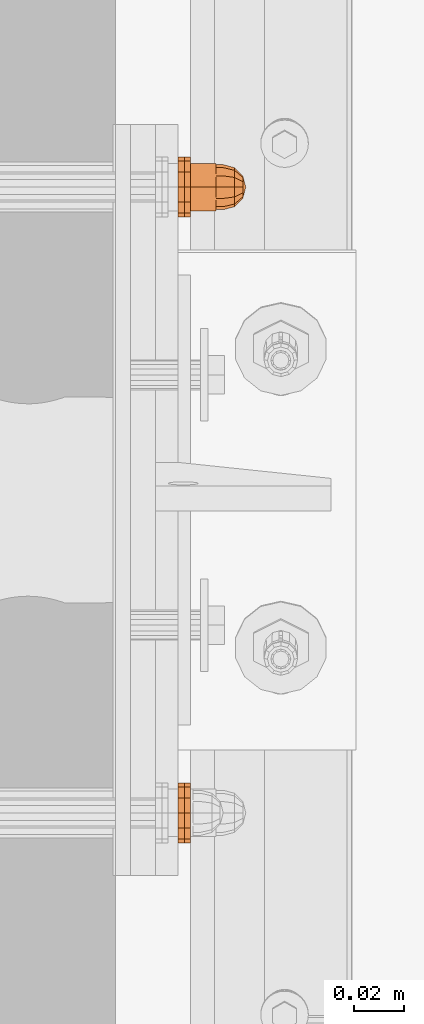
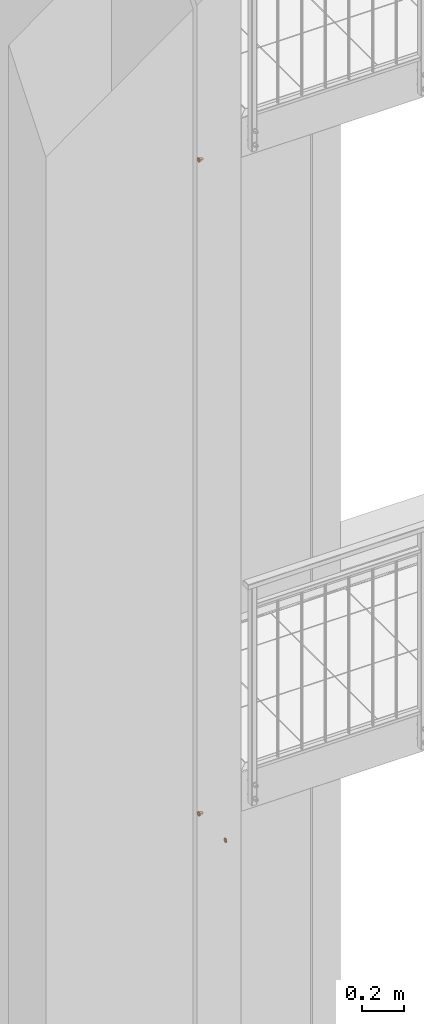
# One storey, part 110 of 162: 8 proxies.
"""IFC2X3 building model written with IfcOpenShell, lengths in millimetres."""

from ifc_helpers import new_model, entity, si_unit, converted_unit, origin_with_axes, place, context, project, spatial, faceted_brep, material, element, save


model = new_model("IFC2X3")

# Units and contexts
model_context = context("Model", 3, precision=1e-09, world=origin_with_axes())
ifc_project = project(units=[si_unit("LENGTHUNIT", "METRE", prefix="MILLI"), si_unit("AREAUNIT", "SQUARE_METRE"), si_unit("VOLUMEUNIT", "CUBIC_METRE"), converted_unit("PLANEANGLEUNIT", "DEGREE", entity("IfcPlaneAngleMeasure", 0.01745329), si_unit("PLANEANGLEUNIT", "RADIAN"), dimensions=[0, 0, 0, 0, 0, 0, 0])], contexts=[model_context])

# Site, building, storey
site_placement = place(None, origin_with_axes())
site = spatial("IfcSite", under=ifc_project, at=site_placement, Name="Hermannstra?e 1a, 60318 Frankfurt", CompositionType="ELEMENT")
building_placement = place(site_placement, origin_with_axes())
building = spatial("IfcBuilding", under=site, at=building_placement, Name="Struktur 1", CompositionType="ELEMENT")
storey_placement = place(building_placement, origin_with_axes())
storey = spatial("IfcBuildingStorey", under=building, at=storey_placement, Name="Default Storey", CompositionType="ELEMENT", Elevation=0.0)

# Proxies
ifc_material_1 = material(Name="A4")
proxy_1_placement = place(None, origin_with_axes())
element("IfcBuildingElementProxy", 1, at=proxy_1_placement, inside=storey, material=ifc_material_1, ObjectType="-", context=model_context, shape_type="Brep", body=[
    faceted_brep([(2550.80936482, 1670.217069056, 11010.999), (2553.30936482, 1670.217069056, 11010.999), (2553.30936482, 1674.609373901, 11015.391304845), (2550.80936482, 1674.609373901, 11015.391304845), (2553.30936482, 1668.609373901, 11004.999), (2553.30936482, 1670.217069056, 10998.999), (2553.30936482, 1674.609373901, 10994.606695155), (2553.30936482, 1680.609373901, 10992.999), (2553.30936482, 1686.609373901, 10994.606695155), (2553.30936482, 1691.001678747, 10998.999), (2553.30936482, 1692.609373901, 11004.999), (2553.30936482, 1691.001678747, 11010.999), (2553.30936482, 1686.609373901, 11015.391304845), (2553.30936482, 1680.609373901, 11016.999), (2553.30936482, 1680.609373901, 11011.499), (2553.30936482, 1683.859373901, 11010.628165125), (2553.30936482, 1686.238539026, 11008.249), (2553.30936482, 1687.109373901, 11004.999), (2553.30936482, 1686.238539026, 11001.749), (2553.30936482, 1683.859373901, 10999.369834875), (2553.30936482, 1680.609373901, 10998.499), (2553.30936482, 1677.359373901, 10999.369834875), (2553.30936482, 1674.980208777, 11001.749), (2553.30936482, 1674.109373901, 11004.999), (2553.30936482, 1674.980208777, 11008.249), (2553.30936482, 1677.359373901, 11010.628165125), (2550.80936482, 1674.980208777, 11008.249), (2550.80936482, 1674.109373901, 11004.999), (2550.80936482, 1674.980208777, 11001.749), (2550.80936482, 1677.359373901, 10999.369834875), (2550.80936482, 1680.609373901, 10998.499), (2550.80936482, 1683.859373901, 10999.369834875), (2550.80936482, 1686.238539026, 11001.749), (2550.80936482, 1687.109373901, 11004.999), (2550.80936482, 1686.238539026, 11008.249), (2550.80936482, 1683.859373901, 11010.628165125), (2550.80936482, 1680.609373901, 11011.499), (2550.80936482, 1677.359373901, 11010.628165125), (2550.80936482, 1668.609373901, 11004.999), (2550.80936482, 1680.609373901, 11016.999), (2550.80936482, 1670.217069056, 10998.999), (2550.80936482, 1686.609373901, 11015.391304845), (2550.80936482, 1674.609373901, 10994.606695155), (2550.80936482, 1691.001678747, 11010.999), (2550.80936482, 1680.609373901, 10992.999), (2550.80936482, 1692.609373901, 11004.999), (2550.80936482, 1686.609373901, 10994.606695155), (2550.80936482, 1691.001678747, 10998.999)], [[[0, 1, 2, 3]], [[2, 1, 4, 5, 6, 7, 8, 9, 10, 11, 12, 13], [14, 15, 16, 17, 18, 19, 20, 21, 22, 23, 24, 25]], [[26, 27, 28, 29, 30, 31, 32, 33, 34, 35, 36, 37]], [[24, 26, 37, 25]], [[1, 0, 38, 4]], [[26, 24, 23, 27]], [[25, 37, 36, 14]], [[3, 2, 13, 39]], [[4, 38, 40, 5]], [[27, 23, 22, 28]], [[14, 36, 35, 15]], [[39, 13, 12, 41]], [[5, 40, 42, 6]], [[28, 22, 21, 29]], [[15, 35, 34, 16]], [[41, 12, 11, 43]], [[33, 17, 16, 34]], [[6, 42, 44, 7]], [[29, 21, 20, 30]], [[32, 18, 17, 33]], [[43, 11, 10, 45]], [[19, 31, 30, 20]], [[18, 32, 31, 19]], [[7, 44, 46, 8]], [[45, 10, 9, 47]], [[8, 46, 47, 9]]]),
])
ifc_material_2 = material(Name="Kunststoff")
proxy_2_placement = place(None, origin_with_axes())
element("IfcBuildingElementProxy", 2, at=proxy_2_placement, inside=storey, material=ifc_material_2, ObjectType="-", context=model_context, shape_type="Brep", body=[
    faceted_brep([(2548.30936482, 1691.001678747, 11010.999), (2550.80936482, 1691.001678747, 11010.999), (2550.80936482, 1692.609373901, 11004.999), (2548.30936482, 1692.609373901, 11004.999), (2548.30936482, 1686.238539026, 11008.249), (2548.30936482, 1683.859373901, 11010.628165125), (2548.30936482, 1680.609373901, 11011.499), (2548.30936482, 1677.359373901, 11010.628165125), (2548.30936482, 1674.980208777, 11008.249), (2548.30936482, 1674.109373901, 11004.999), (2548.30936482, 1674.980208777, 11001.749), (2548.30936482, 1677.359373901, 10999.369834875), (2548.30936482, 1680.609373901, 10998.499), (2548.30936482, 1683.859373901, 10999.369834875), (2548.30936482, 1686.238539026, 11001.749), (2548.30936482, 1687.109373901, 11004.999), (2550.80936482, 1687.109373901, 11004.999), (2550.80936482, 1686.238539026, 11008.249), (2550.80936482, 1686.609373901, 11015.391304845), (2550.80936482, 1680.609373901, 11016.999), (2550.80936482, 1674.609373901, 11015.391304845), (2550.80936482, 1670.217069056, 11010.999), (2550.80936482, 1668.609373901, 11004.999), (2550.80936482, 1670.217069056, 10998.999), (2550.80936482, 1674.609373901, 10994.606695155), (2550.80936482, 1680.609373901, 10992.999), (2550.80936482, 1686.609373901, 10994.606695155), (2550.80936482, 1691.001678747, 10998.999), (2548.30936482, 1686.609373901, 11015.391304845), (2550.80936482, 1686.238539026, 11001.749), (2548.30936482, 1691.001678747, 10998.999), (2550.80936482, 1683.859373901, 11010.628165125), (2548.30936482, 1680.609373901, 11016.999), (2550.80936482, 1683.859373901, 10999.369834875), (2548.30936482, 1686.609373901, 10994.606695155), (2550.80936482, 1680.609373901, 11011.499), (2550.80936482, 1680.609373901, 10998.499), (2548.30936482, 1674.609373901, 11015.391304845), (2550.80936482, 1677.359373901, 11010.628165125), (2548.30936482, 1680.609373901, 10992.999), (2550.80936482, 1677.359373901, 10999.369834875), (2548.30936482, 1670.217069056, 11010.999), (2550.80936482, 1674.980208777, 11008.249), (2548.30936482, 1674.609373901, 10994.606695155), (2550.80936482, 1674.980208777, 11001.749), (2548.30936482, 1668.609373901, 11004.999), (2550.80936482, 1674.109373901, 11004.999), (2548.30936482, 1670.217069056, 10998.999)], [[[0, 1, 2, 3]], [[4, 5, 6, 7, 8, 9, 10, 11, 12, 13, 14, 15]], [[15, 16, 17, 4]], [[1, 18, 19, 20, 21, 22, 23, 24, 25, 26, 27, 2]], [[1, 0, 28, 18]], [[16, 15, 14, 29]], [[3, 2, 27, 30]], [[4, 17, 31, 5]], [[18, 28, 32, 19]], [[29, 14, 13, 33]], [[30, 27, 26, 34]], [[5, 31, 35, 6]], [[33, 13, 12, 36]], [[19, 32, 37, 20]], [[6, 35, 38, 7]], [[34, 26, 25, 39]], [[36, 12, 11, 40]], [[20, 37, 41, 21]], [[7, 38, 42, 8]], [[39, 25, 24, 43]], [[40, 11, 10, 44]], [[21, 41, 45, 22]], [[8, 42, 46, 9]], [[43, 24, 23, 47]], [[44, 10, 9, 46]], [[22, 45, 47, 23]]]),
])
proxy_3_placement = place(None, origin_with_axes())
element("IfcBuildingElementProxy", 3, at=proxy_3_placement, inside=storey, material=ifc_material_1, ObjectType="-", context=model_context, shape_type="Brep", body=[
    faceted_brep([(2563.30936482, 1936.609373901, 11004.999), (2553.30936482, 1936.609373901, 11004.999), (2553.30936482, 1935.805526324, 11001.999), (2563.30936482, 1935.805526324, 11001.999), (2553.30936482, 1933.609373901, 10999.802847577), (2563.30936482, 1933.609373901, 10999.802847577), (2563.30936482, 1935.805526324, 11007.999), (2553.30936482, 1935.805526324, 11007.999), (2553.30936482, 1940.089243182, 11010.472205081), (2553.30936482, 1940.089243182, 10999.525794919), (2553.30936482, 1930.609373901, 10994.052589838), (2553.30936482, 1921.129504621, 10999.525794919), (2553.30936482, 1921.129504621, 11010.472205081), (2553.30936482, 1930.609373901, 11015.945410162), (2553.30936482, 1933.609373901, 11010.195152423), (2553.30936482, 1930.609373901, 11010.999), (2553.30936482, 1927.609373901, 11010.195152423), (2553.30936482, 1925.413221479, 11007.999), (2553.30936482, 1924.609373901, 11004.999), (2553.30936482, 1925.413221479, 11001.999), (2553.30936482, 1927.609373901, 10999.802847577), (2553.30936482, 1930.609373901, 10998.999), (2563.30936482, 1940.089243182, 11010.472205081), (2563.30936482, 1930.609373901, 11015.945410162), (2563.30936482, 1921.129504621, 11010.472205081), (2563.30936482, 1921.129504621, 10999.525794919), (2563.30936482, 1930.609373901, 10994.052589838), (2563.30936482, 1940.089243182, 10999.525794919), (2563.30936482, 1933.609373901, 11010.195152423), (2563.30936482, 1930.609373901, 10998.999), (2563.30936482, 1930.609373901, 11010.999), (2563.30936482, 1927.609373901, 10999.802847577), (2563.30936482, 1927.609373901, 11010.195152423), (2563.30936482, 1925.413221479, 11001.999), (2563.30936482, 1925.413221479, 11007.999), (2563.30936482, 1924.609373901, 11004.999)], [[[0, 1, 2, 3]], [[3, 2, 4, 5]], [[1, 0, 6, 7]], [[8, 9, 10, 11, 12, 13], [7, 14, 15, 16, 17, 18, 19, 20, 21, 4, 2, 1]], [[22, 23, 24, 25, 26, 27]], [[7, 6, 28, 14]], [[22, 27, 9, 8]], [[5, 4, 21, 29]], [[10, 9, 27, 26]], [[14, 28, 30, 15]], [[23, 22, 8, 13]], [[29, 21, 20, 31]], [[11, 10, 26, 25]], [[15, 30, 32, 16]], [[24, 23, 13, 12]], [[31, 20, 19, 33]], [[25, 24, 12, 11]], [[16, 32, 34, 17]], [[33, 19, 18, 35]], [[17, 34, 35, 18]]]),
    faceted_brep([(2566.30936482, 1930.609373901, 11013.999), (2563.30936482, 1930.609373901, 11013.999), (2563.30936482, 1926.109373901, 11012.793228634), (2566.30936482, 1926.109373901, 11012.793228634), (2566.30936482, 1935.109373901, 11012.793228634), (2563.30936482, 1935.109373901, 11012.793228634), (2566.30936482, 1935.109373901, 10997.204771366), (2566.30936482, 1938.403602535, 11000.499), (2566.30936482, 1939.609373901, 11004.999), (2566.30936482, 1938.403602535, 11009.499), (2566.30936482, 1922.815145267, 11009.499), (2566.30936482, 1921.609373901, 11004.999), (2566.30936482, 1922.815145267, 11000.499), (2566.30936482, 1926.109373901, 10997.204771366), (2566.30936482, 1930.609373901, 10995.999), (2563.30936482, 1926.109373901, 10997.204771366), (2563.30936482, 1922.815145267, 11000.499), (2563.30936482, 1921.609373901, 11004.999), (2563.30936482, 1922.815145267, 11009.499), (2563.30936482, 1938.403602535, 11009.499), (2563.30936482, 1939.609373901, 11004.999), (2563.30936482, 1938.403602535, 11000.499), (2563.30936482, 1935.109373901, 10997.204771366), (2563.30936482, 1930.609373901, 10995.999)], [[[0, 1, 2, 3]], [[1, 0, 4, 5]], [[6, 7, 8, 9, 4, 0, 3, 10, 11, 12, 13, 14]], [[15, 16, 17, 18, 2, 1, 5, 19, 20, 21, 22, 23]], [[3, 2, 18, 10]], [[5, 4, 9, 19]], [[10, 18, 17, 11]], [[19, 9, 8, 20]], [[22, 6, 14, 23]], [[7, 21, 20, 8]], [[6, 22, 21, 7]], [[11, 17, 16, 12]], [[23, 14, 13, 15]], [[12, 16, 15, 13]]]),
    faceted_brep([(2570.80936482, 1937.359373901, 11008.896114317), (2566.30936482, 1938.403602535, 11009.499), (2566.30936482, 1935.109373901, 11012.793228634), (2570.80936482, 1934.506488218, 11011.749), (2566.30936482, 1926.109373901, 10997.204771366), (2566.30936482, 1922.815145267, 11000.499), (2566.30936482, 1921.609373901, 11004.999), (2566.30936482, 1922.815145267, 11009.499), (2566.30936482, 1926.109373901, 11012.793228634), (2566.30936482, 1930.609373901, 11013.999), (2566.30936482, 1939.609373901, 11004.999), (2566.30936482, 1938.403602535, 11000.499), (2566.30936482, 1935.109373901, 10997.204771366), (2566.30936482, 1930.609373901, 10995.999), (2570.80936482, 1930.609373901, 11012.793228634), (2574.103593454, 1935.109373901, 11004.999), (2570.80936482, 1938.403602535, 11004.999), (2574.103593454, 1934.506488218, 11007.249), (2570.80936482, 1926.712259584, 11011.749), (2574.103593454, 1932.859373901, 11008.896114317), (2574.103593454, 1934.506488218, 11002.749), (2570.80936482, 1937.359373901, 11001.101885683), (2574.103593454, 1930.609373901, 11009.499), (2575.30936482, 1930.609373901, 11004.999), (2574.103593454, 1932.859373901, 11001.101885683), (2570.80936482, 1934.506488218, 10998.249), (2570.80936482, 1930.609373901, 10997.204771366), (2570.80936482, 1923.859373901, 11008.896114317), (2574.103593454, 1928.359373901, 11008.896114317), (2574.103593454, 1930.609373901, 11000.499), (2570.80936482, 1926.712259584, 10998.249), (2574.103593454, 1928.359373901, 11001.101885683), (2570.80936482, 1922.815145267, 11004.999), (2574.103593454, 1926.712259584, 11007.249), (2570.80936482, 1923.859373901, 11001.101885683), (2574.103593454, 1926.712259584, 11002.749), (2574.103593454, 1926.109373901, 11004.999)], [[[0, 1, 2, 3]], [[4, 5, 6, 7, 8, 9, 2, 1, 10, 11, 12, 13]], [[3, 2, 9, 14]], [[15, 16, 0, 17]], [[1, 0, 16, 10]], [[14, 9, 8, 18]], [[17, 0, 3, 19]], [[16, 15, 20, 21]], [[19, 3, 14, 22]], [[17, 23, 15]], [[24, 25, 21, 20]], [[15, 23, 20]], [[12, 25, 26, 13]], [[11, 21, 25, 12]], [[10, 16, 21, 11]], [[18, 8, 7, 27]], [[22, 14, 18, 28]], [[19, 23, 17]], [[29, 26, 25, 24]], [[20, 23, 24]], [[22, 23, 19]], [[13, 26, 30, 4]], [[26, 29, 31, 30]], [[24, 23, 29]], [[27, 7, 6, 32]], [[28, 18, 27, 33]], [[28, 23, 22]], [[29, 23, 31]], [[33, 23, 28]], [[4, 30, 34, 5]], [[30, 31, 35, 34]], [[31, 23, 35]], [[32, 6, 5, 34]], [[33, 27, 32, 36]], [[36, 23, 33]], [[35, 23, 36]], [[34, 35, 36, 32]]]),
])
proxy_4_placement = place(None, origin_with_axes())
element("IfcBuildingElementProxy", 4, at=proxy_4_placement, inside=storey, material=ifc_material_1, ObjectType="-", context=model_context, shape_type="Brep", body=[
    faceted_brep([(2550.80936482, 1920.217069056, 11010.999), (2553.30936482, 1920.217069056, 11010.999), (2553.30936482, 1924.609373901, 11015.391304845), (2550.80936482, 1924.609373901, 11015.391304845), (2553.30936482, 1918.609373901, 11004.999), (2553.30936482, 1920.217069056, 10998.999), (2553.30936482, 1924.609373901, 10994.606695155), (2553.30936482, 1930.609373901, 10992.999), (2553.30936482, 1936.609373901, 10994.606695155), (2553.30936482, 1941.001678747, 10998.999), (2553.30936482, 1942.609373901, 11004.999), (2553.30936482, 1941.001678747, 11010.999), (2553.30936482, 1936.609373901, 11015.391304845), (2553.30936482, 1930.609373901, 11016.999), (2553.30936482, 1930.609373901, 11011.499), (2553.30936482, 1933.859373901, 11010.628165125), (2553.30936482, 1936.238539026, 11008.249), (2553.30936482, 1937.109373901, 11004.999), (2553.30936482, 1936.238539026, 11001.749), (2553.30936482, 1933.859373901, 10999.369834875), (2553.30936482, 1930.609373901, 10998.499), (2553.30936482, 1927.359373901, 10999.369834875), (2553.30936482, 1924.980208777, 11001.749), (2553.30936482, 1924.109373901, 11004.999), (2553.30936482, 1924.980208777, 11008.249), (2553.30936482, 1927.359373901, 11010.628165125), (2550.80936482, 1924.980208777, 11008.249), (2550.80936482, 1924.109373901, 11004.999), (2550.80936482, 1924.980208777, 11001.749), (2550.80936482, 1927.359373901, 10999.369834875), (2550.80936482, 1930.609373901, 10998.499), (2550.80936482, 1933.859373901, 10999.369834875), (2550.80936482, 1936.238539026, 11001.749), (2550.80936482, 1937.109373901, 11004.999), (2550.80936482, 1936.238539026, 11008.249), (2550.80936482, 1933.859373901, 11010.628165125), (2550.80936482, 1930.609373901, 11011.499), (2550.80936482, 1927.359373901, 11010.628165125), (2550.80936482, 1918.609373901, 11004.999), (2550.80936482, 1930.609373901, 11016.999), (2550.80936482, 1920.217069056, 10998.999), (2550.80936482, 1936.609373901, 11015.391304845), (2550.80936482, 1924.609373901, 10994.606695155), (2550.80936482, 1941.001678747, 11010.999), (2550.80936482, 1930.609373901, 10992.999), (2550.80936482, 1942.609373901, 11004.999), (2550.80936482, 1936.609373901, 10994.606695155), (2550.80936482, 1941.001678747, 10998.999)], [[[0, 1, 2, 3]], [[2, 1, 4, 5, 6, 7, 8, 9, 10, 11, 12, 13], [14, 15, 16, 17, 18, 19, 20, 21, 22, 23, 24, 25]], [[26, 27, 28, 29, 30, 31, 32, 33, 34, 35, 36, 37]], [[24, 26, 37, 25]], [[1, 0, 38, 4]], [[26, 24, 23, 27]], [[25, 37, 36, 14]], [[3, 2, 13, 39]], [[4, 38, 40, 5]], [[27, 23, 22, 28]], [[14, 36, 35, 15]], [[39, 13, 12, 41]], [[5, 40, 42, 6]], [[28, 22, 21, 29]], [[15, 35, 34, 16]], [[41, 12, 11, 43]], [[33, 17, 16, 34]], [[6, 42, 44, 7]], [[29, 21, 20, 30]], [[32, 18, 17, 33]], [[43, 11, 10, 45]], [[19, 31, 30, 20]], [[18, 32, 31, 19]], [[7, 44, 46, 8]], [[45, 10, 9, 47]], [[8, 46, 47, 9]]]),
])
proxy_5_placement = place(None, origin_with_axes())
element("IfcBuildingElementProxy", 5, at=proxy_5_placement, inside=storey, material=ifc_material_2, ObjectType="-", context=model_context, shape_type="Brep", body=[
    faceted_brep([(2548.30936482, 1941.001678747, 11010.999), (2550.80936482, 1941.001678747, 11010.999), (2550.80936482, 1942.609373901, 11004.999), (2548.30936482, 1942.609373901, 11004.999), (2548.30936482, 1936.238539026, 11008.249), (2548.30936482, 1933.859373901, 11010.628165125), (2548.30936482, 1930.609373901, 11011.499), (2548.30936482, 1927.359373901, 11010.628165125), (2548.30936482, 1924.980208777, 11008.249), (2548.30936482, 1924.109373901, 11004.999), (2548.30936482, 1924.980208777, 11001.749), (2548.30936482, 1927.359373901, 10999.369834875), (2548.30936482, 1930.609373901, 10998.499), (2548.30936482, 1933.859373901, 10999.369834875), (2548.30936482, 1936.238539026, 11001.749), (2548.30936482, 1937.109373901, 11004.999), (2550.80936482, 1937.109373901, 11004.999), (2550.80936482, 1936.238539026, 11008.249), (2550.80936482, 1936.609373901, 11015.391304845), (2550.80936482, 1930.609373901, 11016.999), (2550.80936482, 1924.609373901, 11015.391304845), (2550.80936482, 1920.217069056, 11010.999), (2550.80936482, 1918.609373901, 11004.999), (2550.80936482, 1920.217069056, 10998.999), (2550.80936482, 1924.609373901, 10994.606695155), (2550.80936482, 1930.609373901, 10992.999), (2550.80936482, 1936.609373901, 10994.606695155), (2550.80936482, 1941.001678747, 10998.999), (2548.30936482, 1936.609373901, 11015.391304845), (2550.80936482, 1936.238539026, 11001.749), (2548.30936482, 1941.001678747, 10998.999), (2550.80936482, 1933.859373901, 11010.628165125), (2548.30936482, 1930.609373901, 11016.999), (2550.80936482, 1933.859373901, 10999.369834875), (2548.30936482, 1936.609373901, 10994.606695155), (2550.80936482, 1930.609373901, 11011.499), (2550.80936482, 1930.609373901, 10998.499), (2548.30936482, 1924.609373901, 11015.391304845), (2550.80936482, 1927.359373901, 11010.628165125), (2548.30936482, 1930.609373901, 10992.999), (2550.80936482, 1927.359373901, 10999.369834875), (2548.30936482, 1920.217069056, 11010.999), (2550.80936482, 1924.980208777, 11008.249), (2548.30936482, 1924.609373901, 10994.606695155), (2550.80936482, 1924.980208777, 11001.749), (2548.30936482, 1918.609373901, 11004.999), (2550.80936482, 1924.109373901, 11004.999), (2548.30936482, 1920.217069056, 10998.999)], [[[0, 1, 2, 3]], [[4, 5, 6, 7, 8, 9, 10, 11, 12, 13, 14, 15]], [[15, 16, 17, 4]], [[1, 18, 19, 20, 21, 22, 23, 24, 25, 26, 27, 2]], [[1, 0, 28, 18]], [[16, 15, 14, 29]], [[3, 2, 27, 30]], [[4, 17, 31, 5]], [[18, 28, 32, 19]], [[29, 14, 13, 33]], [[30, 27, 26, 34]], [[5, 31, 35, 6]], [[33, 13, 12, 36]], [[19, 32, 37, 20]], [[6, 35, 38, 7]], [[34, 26, 25, 39]], [[36, 12, 11, 40]], [[20, 37, 41, 21]], [[7, 38, 42, 8]], [[39, 25, 24, 43]], [[40, 11, 10, 44]], [[21, 41, 45, 22]], [[8, 42, 46, 9]], [[43, 24, 23, 47]], [[44, 10, 9, 46]], [[22, 45, 47, 23]]]),
])
proxy_6_placement = place(None, origin_with_axes())
element("IfcBuildingElementProxy", 6, at=proxy_6_placement, inside=storey, material=ifc_material_2, ObjectType="-", context=model_context, shape_type="Brep", body=[
    faceted_brep([(2548.310071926, 1941.002385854, 14767.999), (2550.810071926, 1941.002385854, 14767.999), (2550.810071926, 1942.610081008, 14761.999), (2548.310071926, 1942.610081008, 14761.999), (2548.310071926, 1936.239246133, 14765.249), (2548.310071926, 1933.860081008, 14767.628165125), (2548.310071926, 1930.610081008, 14768.499), (2548.310071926, 1927.360081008, 14767.628165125), (2548.310071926, 1924.980915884, 14765.249), (2548.310071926, 1924.110081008, 14761.999), (2548.310071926, 1924.980915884, 14758.749), (2548.310071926, 1927.360081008, 14756.369834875), (2548.310071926, 1930.610081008, 14755.499), (2548.310071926, 1933.860081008, 14756.369834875), (2548.310071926, 1936.239246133, 14758.749), (2548.310071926, 1937.110081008, 14761.999), (2550.810071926, 1937.110081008, 14761.999), (2550.810071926, 1936.239246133, 14765.249), (2550.810071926, 1936.610081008, 14772.391304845), (2550.810071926, 1930.610081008, 14773.999), (2550.810071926, 1924.610081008, 14772.391304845), (2550.810071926, 1920.217776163, 14767.999), (2550.810071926, 1918.610081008, 14761.999), (2550.810071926, 1920.217776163, 14755.999), (2550.810071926, 1924.610081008, 14751.606695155), (2550.810071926, 1930.610081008, 14749.999), (2550.810071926, 1936.610081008, 14751.606695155), (2550.810071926, 1941.002385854, 14755.999), (2548.310071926, 1936.610081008, 14772.391304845), (2550.810071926, 1936.239246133, 14758.749), (2548.310071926, 1941.002385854, 14755.999), (2550.810071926, 1933.860081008, 14767.628165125), (2548.310071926, 1930.610081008, 14773.999), (2550.810071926, 1933.860081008, 14756.369834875), (2548.310071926, 1936.610081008, 14751.606695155), (2550.810071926, 1930.610081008, 14768.499), (2550.810071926, 1930.610081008, 14755.499), (2548.310071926, 1924.610081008, 14772.391304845), (2550.810071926, 1927.360081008, 14767.628165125), (2548.310071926, 1930.610081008, 14749.999), (2550.810071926, 1927.360081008, 14756.369834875), (2548.310071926, 1920.217776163, 14767.999), (2550.810071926, 1924.980915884, 14765.249), (2548.310071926, 1924.610081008, 14751.606695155), (2550.810071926, 1924.980915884, 14758.749), (2548.310071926, 1918.610081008, 14761.999), (2550.810071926, 1924.110081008, 14761.999), (2548.310071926, 1920.217776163, 14755.999)], [[[0, 1, 2, 3]], [[4, 5, 6, 7, 8, 9, 10, 11, 12, 13, 14, 15]], [[15, 16, 17, 4]], [[1, 18, 19, 20, 21, 22, 23, 24, 25, 26, 27, 2]], [[1, 0, 28, 18]], [[16, 15, 14, 29]], [[3, 2, 27, 30]], [[4, 17, 31, 5]], [[18, 28, 32, 19]], [[29, 14, 13, 33]], [[30, 27, 26, 34]], [[5, 31, 35, 6]], [[33, 13, 12, 36]], [[19, 32, 37, 20]], [[6, 35, 38, 7]], [[34, 26, 25, 39]], [[36, 12, 11, 40]], [[20, 37, 41, 21]], [[7, 38, 42, 8]], [[39, 25, 24, 43]], [[40, 11, 10, 44]], [[21, 41, 45, 22]], [[8, 42, 46, 9]], [[43, 24, 23, 47]], [[44, 10, 9, 46]], [[22, 45, 47, 23]]]),
])
proxy_7_placement = place(None, origin_with_axes())
element("IfcBuildingElementProxy", 7, at=proxy_7_placement, inside=storey, material=ifc_material_1, ObjectType="-", context=model_context, shape_type="Brep", body=[
    faceted_brep([(2550.810071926, 1920.217776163, 14767.999), (2553.310071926, 1920.217776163, 14767.999), (2553.310071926, 1924.610081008, 14772.391304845), (2550.810071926, 1924.610081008, 14772.391304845), (2553.310071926, 1918.610081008, 14761.999), (2553.310071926, 1920.217776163, 14755.999), (2553.310071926, 1924.610081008, 14751.606695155), (2553.310071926, 1930.610081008, 14749.999), (2553.310071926, 1936.610081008, 14751.606695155), (2553.310071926, 1941.002385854, 14755.999), (2553.310071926, 1942.610081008, 14761.999), (2553.310071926, 1941.002385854, 14767.999), (2553.310071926, 1936.610081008, 14772.391304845), (2553.310071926, 1930.610081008, 14773.999), (2553.310071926, 1930.610081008, 14768.499), (2553.310071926, 1933.860081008, 14767.628165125), (2553.310071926, 1936.239246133, 14765.249), (2553.310071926, 1937.110081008, 14761.999), (2553.310071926, 1936.239246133, 14758.749), (2553.310071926, 1933.860081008, 14756.369834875), (2553.310071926, 1930.610081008, 14755.499), (2553.310071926, 1927.360081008, 14756.369834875), (2553.310071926, 1924.980915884, 14758.749), (2553.310071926, 1924.110081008, 14761.999), (2553.310071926, 1924.980915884, 14765.249), (2553.310071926, 1927.360081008, 14767.628165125), (2550.810071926, 1924.980915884, 14765.249), (2550.810071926, 1924.110081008, 14761.999), (2550.810071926, 1924.980915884, 14758.749), (2550.810071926, 1927.360081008, 14756.369834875), (2550.810071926, 1930.610081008, 14755.499), (2550.810071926, 1933.860081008, 14756.369834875), (2550.810071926, 1936.239246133, 14758.749), (2550.810071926, 1937.110081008, 14761.999), (2550.810071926, 1936.239246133, 14765.249), (2550.810071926, 1933.860081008, 14767.628165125), (2550.810071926, 1930.610081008, 14768.499), (2550.810071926, 1927.360081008, 14767.628165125), (2550.810071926, 1918.610081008, 14761.999), (2550.810071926, 1930.610081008, 14773.999), (2550.810071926, 1920.217776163, 14755.999), (2550.810071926, 1936.610081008, 14772.391304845), (2550.810071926, 1924.610081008, 14751.606695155), (2550.810071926, 1941.002385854, 14767.999), (2550.810071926, 1930.610081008, 14749.999), (2550.810071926, 1942.610081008, 14761.999), (2550.810071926, 1936.610081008, 14751.606695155), (2550.810071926, 1941.002385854, 14755.999)], [[[0, 1, 2, 3]], [[2, 1, 4, 5, 6, 7, 8, 9, 10, 11, 12, 13], [14, 15, 16, 17, 18, 19, 20, 21, 22, 23, 24, 25]], [[26, 27, 28, 29, 30, 31, 32, 33, 34, 35, 36, 37]], [[24, 26, 37, 25]], [[1, 0, 38, 4]], [[26, 24, 23, 27]], [[25, 37, 36, 14]], [[3, 2, 13, 39]], [[4, 38, 40, 5]], [[27, 23, 22, 28]], [[14, 36, 35, 15]], [[39, 13, 12, 41]], [[5, 40, 42, 6]], [[28, 22, 21, 29]], [[15, 35, 34, 16]], [[41, 12, 11, 43]], [[33, 17, 16, 34]], [[6, 42, 44, 7]], [[29, 21, 20, 30]], [[32, 18, 17, 33]], [[43, 11, 10, 45]], [[19, 31, 30, 20]], [[18, 32, 31, 19]], [[7, 44, 46, 8]], [[45, 10, 9, 47]], [[8, 46, 47, 9]]]),
])
proxy_8_placement = place(None, origin_with_axes())
element("IfcBuildingElementProxy", 8, at=proxy_8_placement, inside=storey, material=ifc_material_1, ObjectType="-", context=model_context, shape_type="Brep", body=[
    faceted_brep([(2563.310071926, 1936.610081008, 14761.999), (2553.310071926, 1936.610081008, 14761.999), (2553.310071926, 1935.806233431, 14758.999), (2563.310071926, 1935.806233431, 14758.999), (2553.310071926, 1933.610081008, 14756.802847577), (2563.310071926, 1933.610081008, 14756.802847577), (2563.310071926, 1935.806233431, 14764.999), (2553.310071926, 1935.806233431, 14764.999), (2553.310071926, 1940.089950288, 14767.472205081), (2553.310071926, 1940.089950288, 14756.525794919), (2553.310071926, 1930.610081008, 14751.052589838), (2553.310071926, 1921.130211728, 14756.525794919), (2553.310071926, 1921.130211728, 14767.472205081), (2553.310071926, 1930.610081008, 14772.945410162), (2553.310071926, 1933.610081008, 14767.195152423), (2553.310071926, 1930.610081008, 14767.999), (2553.310071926, 1927.610081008, 14767.195152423), (2553.310071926, 1925.413928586, 14764.999), (2553.310071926, 1924.610081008, 14761.999), (2553.310071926, 1925.413928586, 14758.999), (2553.310071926, 1927.610081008, 14756.802847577), (2553.310071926, 1930.610081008, 14755.999), (2563.310071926, 1940.089950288, 14767.472205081), (2563.310071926, 1930.610081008, 14772.945410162), (2563.310071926, 1921.130211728, 14767.472205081), (2563.310071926, 1921.130211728, 14756.525794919), (2563.310071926, 1930.610081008, 14751.052589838), (2563.310071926, 1940.089950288, 14756.525794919), (2563.310071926, 1933.610081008, 14767.195152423), (2563.310071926, 1930.610081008, 14755.999), (2563.310071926, 1930.610081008, 14767.999), (2563.310071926, 1927.610081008, 14756.802847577), (2563.310071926, 1927.610081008, 14767.195152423), (2563.310071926, 1925.413928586, 14758.999), (2563.310071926, 1925.413928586, 14764.999), (2563.310071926, 1924.610081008, 14761.999)], [[[0, 1, 2, 3]], [[3, 2, 4, 5]], [[1, 0, 6, 7]], [[8, 9, 10, 11, 12, 13], [7, 14, 15, 16, 17, 18, 19, 20, 21, 4, 2, 1]], [[22, 23, 24, 25, 26, 27]], [[7, 6, 28, 14]], [[22, 27, 9, 8]], [[5, 4, 21, 29]], [[10, 9, 27, 26]], [[14, 28, 30, 15]], [[23, 22, 8, 13]], [[29, 21, 20, 31]], [[11, 10, 26, 25]], [[15, 30, 32, 16]], [[24, 23, 13, 12]], [[31, 20, 19, 33]], [[25, 24, 12, 11]], [[16, 32, 34, 17]], [[33, 19, 18, 35]], [[17, 34, 35, 18]]]),
    faceted_brep([(2566.310071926, 1930.610081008, 14770.999), (2563.310071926, 1930.610081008, 14770.999), (2563.310071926, 1926.110081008, 14769.793228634), (2566.310071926, 1926.110081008, 14769.793228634), (2566.310071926, 1935.110081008, 14769.793228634), (2563.310071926, 1935.110081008, 14769.793228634), (2566.310071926, 1935.110081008, 14754.204771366), (2566.310071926, 1938.404309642, 14757.499), (2566.310071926, 1939.610081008, 14761.999), (2566.310071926, 1938.404309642, 14766.499), (2566.310071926, 1922.815852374, 14766.499), (2566.310071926, 1921.610081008, 14761.999), (2566.310071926, 1922.815852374, 14757.499), (2566.310071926, 1926.110081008, 14754.204771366), (2566.310071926, 1930.610081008, 14752.999), (2563.310071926, 1926.110081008, 14754.204771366), (2563.310071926, 1922.815852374, 14757.499), (2563.310071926, 1921.610081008, 14761.999), (2563.310071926, 1922.815852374, 14766.499), (2563.310071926, 1938.404309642, 14766.499), (2563.310071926, 1939.610081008, 14761.999), (2563.310071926, 1938.404309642, 14757.499), (2563.310071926, 1935.110081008, 14754.204771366), (2563.310071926, 1930.610081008, 14752.999)], [[[0, 1, 2, 3]], [[1, 0, 4, 5]], [[6, 7, 8, 9, 4, 0, 3, 10, 11, 12, 13, 14]], [[15, 16, 17, 18, 2, 1, 5, 19, 20, 21, 22, 23]], [[3, 2, 18, 10]], [[5, 4, 9, 19]], [[10, 18, 17, 11]], [[19, 9, 8, 20]], [[22, 6, 14, 23]], [[7, 21, 20, 8]], [[6, 22, 21, 7]], [[11, 17, 16, 12]], [[23, 14, 13, 15]], [[12, 16, 15, 13]]]),
    faceted_brep([(2570.810071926, 1937.360081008, 14765.896114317), (2566.310071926, 1938.404309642, 14766.499), (2566.310071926, 1935.110081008, 14769.793228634), (2570.810071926, 1934.507195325, 14768.749), (2566.310071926, 1926.110081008, 14754.204771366), (2566.310071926, 1922.815852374, 14757.499), (2566.310071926, 1921.610081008, 14761.999), (2566.310071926, 1922.815852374, 14766.499), (2566.310071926, 1926.110081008, 14769.793228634), (2566.310071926, 1930.610081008, 14770.999), (2566.310071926, 1939.610081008, 14761.999), (2566.310071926, 1938.404309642, 14757.499), (2566.310071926, 1935.110081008, 14754.204771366), (2566.310071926, 1930.610081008, 14752.999), (2570.810071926, 1930.610081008, 14769.793228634), (2574.104300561, 1935.110081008, 14761.999), (2570.810071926, 1938.404309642, 14761.999), (2574.104300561, 1934.507195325, 14764.249), (2570.810071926, 1926.712966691, 14768.749), (2574.104300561, 1932.860081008, 14765.896114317), (2574.104300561, 1934.507195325, 14759.749), (2570.810071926, 1937.360081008, 14758.101885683), (2574.104300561, 1930.610081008, 14766.499), (2575.310071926, 1930.610081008, 14761.999), (2574.104300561, 1932.860081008, 14758.101885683), (2570.810071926, 1934.507195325, 14755.249), (2570.810071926, 1930.610081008, 14754.204771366), (2570.810071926, 1923.860081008, 14765.896114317), (2574.104300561, 1928.360081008, 14765.896114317), (2574.104300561, 1930.610081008, 14757.499), (2570.810071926, 1926.712966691, 14755.249), (2574.104300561, 1928.360081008, 14758.101885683), (2570.810071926, 1922.815852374, 14761.999), (2574.104300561, 1926.712966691, 14764.249), (2570.810071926, 1923.860081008, 14758.101885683), (2574.104300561, 1926.712966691, 14759.749), (2574.104300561, 1926.110081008, 14761.999)], [[[0, 1, 2, 3]], [[4, 5, 6, 7, 8, 9, 2, 1, 10, 11, 12, 13]], [[3, 2, 9, 14]], [[15, 16, 0, 17]], [[1, 0, 16, 10]], [[14, 9, 8, 18]], [[17, 0, 3, 19]], [[16, 15, 20, 21]], [[19, 3, 14, 22]], [[17, 23, 15]], [[24, 25, 21, 20]], [[15, 23, 20]], [[12, 25, 26, 13]], [[11, 21, 25, 12]], [[10, 16, 21, 11]], [[18, 8, 7, 27]], [[22, 14, 18, 28]], [[19, 23, 17]], [[29, 26, 25, 24]], [[20, 23, 24]], [[22, 23, 19]], [[13, 26, 30, 4]], [[26, 29, 31, 30]], [[24, 23, 29]], [[27, 7, 6, 32]], [[28, 18, 27, 33]], [[28, 23, 22]], [[29, 23, 31]], [[33, 23, 28]], [[4, 30, 34, 5]], [[30, 31, 35, 34]], [[31, 23, 35]], [[32, 6, 5, 34]], [[33, 27, 32, 36]], [[36, 23, 33]], [[35, 23, 36]], [[34, 35, 36, 32]]]),
])

save(model, "model.ifc")
